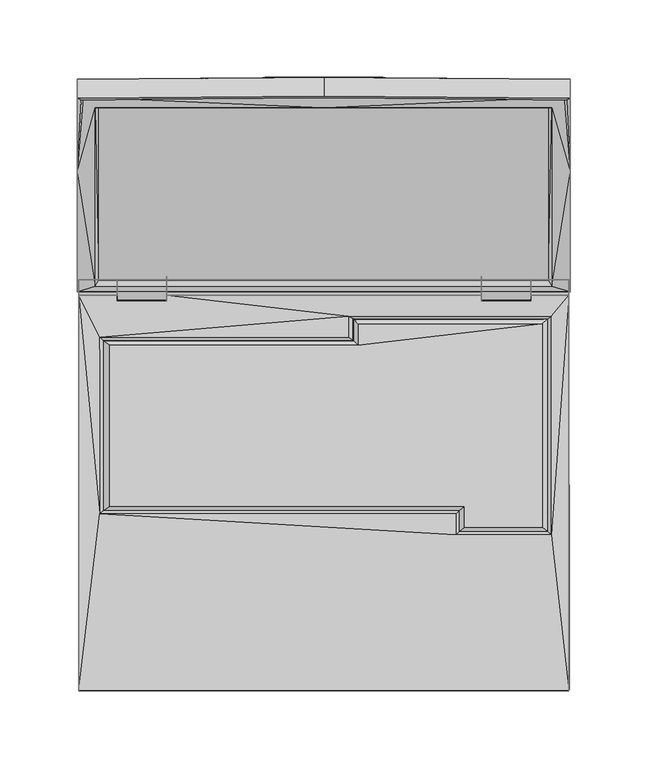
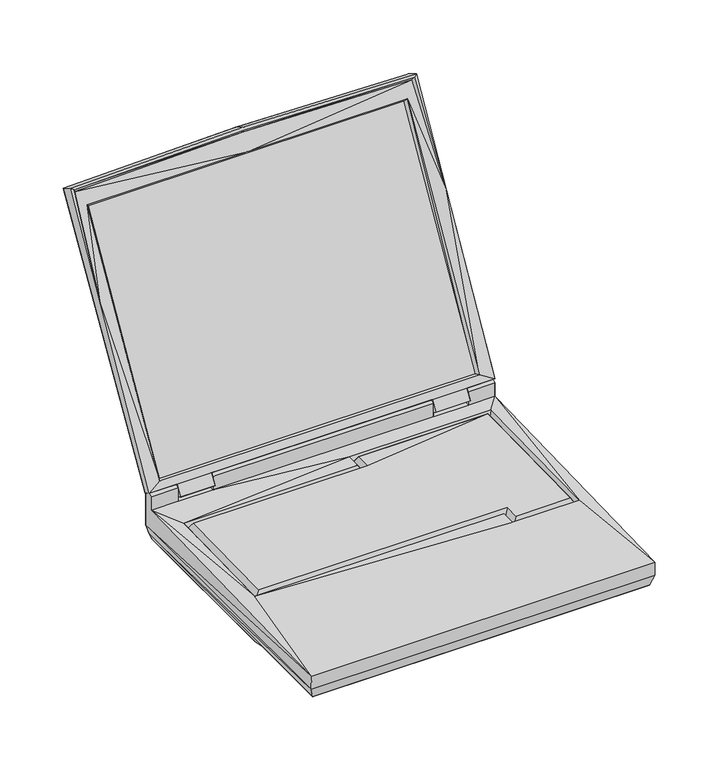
"""IFC4 building model written with IfcOpenShell, lengths in millimetres: proxy geometry, RPC Notebook Computer : RPC Notebook Computer."""

from ifc_helpers import new_model, si_unit, origin, place, context, project, spatial, triangles, source, transform, mapped, element, save


def entourage_0ad6723a(model_context):
    return source(origin(), model_context, "Body", "Tessellation", [
        triangles([(-158.4296465, -167.58125, 28.2218852), (-101.7496669, 97.7313892, 35.1332116), (-101.7496669, 97.7313892, 48.4910445), (-101.7496669, 92.7961799, 50.2665039), (-101.7496669, 87.9168539, 48.183705), (-101.7496669, 87.9168539, 35.1332116), (-158.4296465, 87.9168539, 35.1332116), (-133.8221823, 97.7288549, 35.1332116), (-133.8221823, 97.7313892, 48.4910445), (-133.8221823, 92.7961799, 50.2665039), (-133.8221823, 87.9168539, 48.183705), (-133.8221823, 87.9168539, 35.1332116), (158.4321899, -167.58125, 28.2218852), (101.7496669, 97.7313892, 35.1332116), (101.7496669, 97.7313892, 48.4910445), (101.7496669, 92.7961799, 50.2665039), (101.7496669, 87.9168539, 48.183705), (101.7496669, 87.9168539, 35.1332116), (85.2320795, -66.8399699, 31.8083578), (-144.8813183, -53.1646373, 31.9658382), (85.2320795, -53.1646373, 31.9658382), (-144.8813183, 60.6703247, 34.190875), (146.9209376, 74.3380361, 34.2924744), (146.9209376, -66.8399699, 31.8083578), (158.4321899, 87.9168539, 35.1332116), (133.8247257, 97.7313892, 35.1332116), (133.8247257, 97.7313892, 48.4910445), (133.8247257, 92.7961799, 50.2665039), (133.8247257, 87.9168539, 48.183705), (133.8247257, 87.9168539, 35.1332116), (-142.7070869, 58.4935454, 29.3902823), (15.8851291, 74.3380361, 34.2924744), (19.0347234, 72.5752803, 29.491884), (15.8851291, 60.6703247, 34.190875), (19.0347234, 58.4935454, 29.3902823), (-155.2851437, -164.0506697, 4.7853507), (-155.2851437, -83.3296157, 4.8691705), (-153.4715916, -69.0040457, 0.0), (-153.4715916, 95.8771965, 0.0), (155.2876871, -164.0506697, 4.7853507), (155.2851437, -83.3296157, 4.8691705), (153.4715916, -69.0040457, 0.0), (153.4715916, 95.8771965, 0.0), (-155.2851437, 97.7313892, 4.8691705), (-158.4296465, 97.7313892, 14.9046918), (-158.4296465, 97.7313892, 48.4910445), (155.2851437, 97.7313892, 4.8691705), (158.4321899, 97.7313892, 14.9046918), (158.4321899, 97.7313892, 48.4910445), (-158.4296465, 92.7961799, 50.2665039), (-158.4296465, 87.9168539, 48.183705), (158.4321899, 92.7961799, 50.2665039), (158.4321899, 87.9168539, 48.183705), (-158.6201509, -166.809095, 14.9046918), (158.6201509, -166.809095, 14.9046918), (87.4063109, -64.9654568, 27.0992089), (-142.7070869, -51.2901197, 27.2541481), (87.4063109, -51.2901197, 27.2541481), (144.7466972, 72.5752803, 29.491884), (144.7466972, -64.9654568, 27.0992089), (141.2262725, -62.1181197, 32.971677), (90.9267446, -62.1181197, 32.971677), (-138.3738576, -48.4427871, 33.1266163), (90.9267446, -48.4427871, 33.1266163), (-138.3738576, 55.455713, 35.1128913), (141.2262725, 69.5374479, 35.2170319), (21.8820582, 55.455713, 35.1128913), (21.8820582, 69.5374479, 35.2170319), (0.0, 97.4128585, 55.9745857), (0.0, 210.9896832, 252.9150856), (-145.6915795, 97.4079442, 55.9759029), (-145.6915795, 210.9896832, 252.9150856), (145.1099199, 97.4079442, 55.9759029), (145.1099199, 210.9896832, 252.9150856), (0.0, 93.6356817, 56.4318344), (0.0, 208.9149552, 255.5746798), (-147.9064516, 93.6314306, 56.4355996), (-147.9064516, 208.9149552, 255.5746798), (147.324792, 93.6314306, 56.4355996), (147.324792, 208.9149552, 255.5746798), (0.0, 216.3935685, 274.7706011), (0.0, 228.5968389, 267.3880576), (-159.4431202, 215.2201299, 272.1872014), (-159.4431202, 227.4258529, 264.8040038), (159.4431202, 215.2201299, 272.1872014), (159.4431202, 227.4258529, 264.8040038), (0.0, 228.4382185, 258.9843009), (0.0, 100.2161304, 44.3947738), (-101.7496669, 95.9080176, 34.4601195), (-154.0176883, 227.2647799, 256.4009012), (-101.7496669, 100.2161304, 44.3947738), (-133.8221823, 95.8970626, 34.4683153), (-133.7332797, 100.2161304, 44.3947738), (-154.0176883, 100.2161304, 44.3947738), (-133.8221823, 99.9570619, 37.7850142), (-101.7496669, 99.9570619, 37.7850142), (-159.4431202, 96.6325737, 46.5461914), (101.7496669, 95.9080176, 34.4601195), (154.0176883, 227.2647799, 256.4009012), (101.7496669, 100.2161304, 44.3947738), (133.8221823, 95.8970626, 34.4683153), (133.7332797, 100.2161304, 44.3947738), (154.0176883, 100.2161304, 44.3947738), (133.8221823, 99.9570619, 37.7850142), (101.7496669, 99.9570619, 37.7850142), (159.4431202, 96.6325737, 46.5461914), (0.0, 90.14497, 50.4408074), (-101.7496669, 84.4468077, 41.3440562), (-101.7496669, 90.1498753, 50.4394948), (-133.8221823, 84.4468077, 41.3440562), (101.7496669, 84.4468077, 41.3440562), (101.7496669, 90.1498753, 50.4394948), (133.8221823, 84.4468077, 41.3440562), (-133.7332797, 90.1498753, 50.4394948), (-159.4431202, 90.1431715, 50.4439186), (133.7332797, 90.1498753, 50.4394948), (159.4431202, 90.1431715, 50.4439186), (0.0, 215.2954524, 272.7823504), (-156.9437634, 214.1244664, 270.1982966), (-159.4431202, 167.4021366, 187.4104175), (0.0, 216.9436621, 269.6006769), (-155.5010462, 215.7733483, 267.0190757), (156.9437634, 214.1244664, 270.1982966), (159.4431202, 167.4021366, 187.4104175), (155.5010462, 215.7733483, 267.0190757)], [[19, 1, 13], [2, 6, 3], [3, 6, 4], [4, 6, 5], [12, 6, 8], [8, 6, 2], [11, 12, 10], [10, 12, 9], [9, 12, 8], [21, 20, 19], [20, 1, 19], [22, 6, 12], [1, 20, 7], [22, 12, 7], [23, 6, 32], [18, 6, 23], [19, 13, 24], [14, 15, 18], [15, 16, 18], [16, 17, 18], [30, 26, 18], [26, 14, 18], [29, 28, 30], [28, 27, 30], [27, 26, 30], [24, 25, 23], [23, 30, 18], [13, 25, 24], [23, 25, 30], [32, 6, 22], [22, 34, 32], [31, 33, 35], [37, 41, 36], [36, 41, 40], [42, 41, 38], [38, 41, 37], [39, 43, 38], [38, 43, 42], [44, 8, 2], [8, 44, 45], [45, 46, 9], [9, 8, 45], [44, 47, 39], [39, 47, 43], [2, 14, 47], [2, 47, 44], [3, 15, 14], [3, 14, 2], [47, 14, 26], [26, 48, 47], [48, 27, 49], [27, 48, 26], [50, 51, 11], [11, 10, 50], [5, 17, 16], [5, 16, 4], [52, 29, 53], [29, 52, 28], [46, 50, 10], [10, 9, 46], [4, 16, 15], [4, 15, 3], [49, 28, 52], [28, 49, 27], [13, 1, 55], [55, 1, 54], [55, 54, 40], [40, 54, 36], [55, 40, 41], [48, 52, 25], [52, 48, 49], [53, 25, 52], [41, 43, 47], [13, 48, 25], [55, 47, 48], [43, 41, 42], [48, 13, 55], [47, 55, 41], [51, 7, 12], [12, 11, 51], [6, 18, 17], [6, 17, 5], [53, 30, 25], [30, 53, 29], [54, 37, 36], [45, 7, 50], [50, 46, 45], [51, 50, 7], [37, 44, 39], [1, 7, 45], [54, 45, 44], [39, 38, 37], [45, 54, 1], [44, 37, 54], [57, 31, 22], [23, 32, 33], [33, 59, 23], [20, 21, 58], [58, 57, 20], [21, 19, 56], [56, 58, 21], [19, 24, 60], [60, 56, 19], [24, 23, 59], [59, 60, 24], [34, 22, 31], [31, 35, 34], [33, 32, 34], [34, 35, 33], [59, 35, 33], [20, 22, 7], [22, 20, 57], [67, 65, 63], [67, 63, 64], [64, 62, 61], [66, 64, 61], [31, 57, 63], [63, 65, 31], [35, 31, 65], [65, 67, 35], [57, 58, 64], [64, 63, 57], [58, 56, 62], [62, 64, 58], [56, 60, 61], [61, 62, 56], [60, 59, 66], [66, 61, 60], [66, 67, 64], [68, 66, 59], [59, 33, 68], [35, 67, 68], [68, 33, 35], [66, 68, 67], [69, 70, 72], [69, 72, 71], [69, 74, 70], [69, 73, 74], [76, 78, 72], [72, 70, 76], [77, 75, 69], [69, 71, 77], [78, 77, 71], [71, 72, 78], [76, 74, 80], [74, 76, 70], [79, 69, 75], [69, 79, 73], [80, 73, 79], [73, 80, 74], [81, 82, 84], [81, 84, 83], [81, 86, 82], [81, 85, 86], [82, 87, 90], [82, 90, 84], [87, 88, 91], [87, 91, 90], [90, 91, 93], [96, 89, 92], [96, 92, 95], [90, 93, 94], [97, 90, 94], [91, 95, 93], [91, 96, 95], [97, 84, 90], [82, 99, 87], [82, 86, 99], [87, 100, 88], [87, 99, 100], [99, 102, 100], [105, 101, 98], [105, 104, 101], [102, 99, 103], [106, 103, 99], [100, 102, 104], [100, 104, 105], [106, 99, 86], [89, 108, 110], [89, 110, 92], [96, 91, 89], [89, 91, 108], [108, 91, 109], [91, 88, 109], [109, 88, 107], [98, 113, 111], [98, 101, 113], [105, 98, 100], [98, 111, 100], [111, 112, 100], [100, 112, 88], [112, 107, 88], [93, 114, 115], [93, 115, 97], [95, 92, 93], [93, 92, 114], [114, 92, 110], [93, 97, 94], [102, 117, 116], [102, 106, 117], [104, 102, 101], [102, 116, 101], [116, 113, 101], [102, 103, 106], [108, 109, 114], [108, 114, 110], [81, 83, 119], [109, 107, 75], [75, 77, 109], [114, 109, 77], [120, 115, 77], [114, 77, 115], [119, 118, 81], [77, 78, 120], [119, 120, 122], [76, 121, 122], [76, 122, 78], [119, 122, 121], [119, 121, 118], [120, 78, 122], [83, 120, 119], [111, 116, 112], [111, 113, 116], [81, 123, 85], [112, 75, 107], [75, 112, 79], [116, 79, 112], [124, 79, 117], [117, 79, 116], [123, 81, 118], [79, 124, 80], [123, 125, 124], [76, 125, 121], [76, 80, 125], [123, 121, 125], [123, 118, 121], [124, 125, 80], [85, 123, 124], [117, 86, 124], [117, 106, 86], [124, 86, 85], [115, 120, 84], [115, 84, 97], [120, 83, 84]], closed=False),
    ])


if __name__ == "__main__":
    model = new_model("IFC4")
    model_context = context("Model", 3, world=origin())
    ifc_project = project(units=[si_unit("LENGTHUNIT", "METRE", prefix="MILLI")], contexts=[model_context])
    site = spatial("IfcSite", under=ifc_project)
    building = spatial("IfcBuilding", under=site)
    placement = place(None, origin())
    entourage_shape = entourage_0ad6723a(model_context)
    element("IfcBuildingElementProxy", 1, Name="RPC Notebook Computer : RPC Notebook Computer", ObjectType="RPC Notebook Computer : RPC Notebook Computer", at=placement, inside=building, context=model_context, shape_type="MappedRepresentation", body=[
        mapped(entourage_shape, transform((0.0, 0.0, 0.0), x_axis=(1.0, 0.0, 0.0), y_axis=(0.0, 1.0, 0.0), z_axis=(0.0, 0.0, 1.0))),
    ])
    save(model, "model.ifc")
